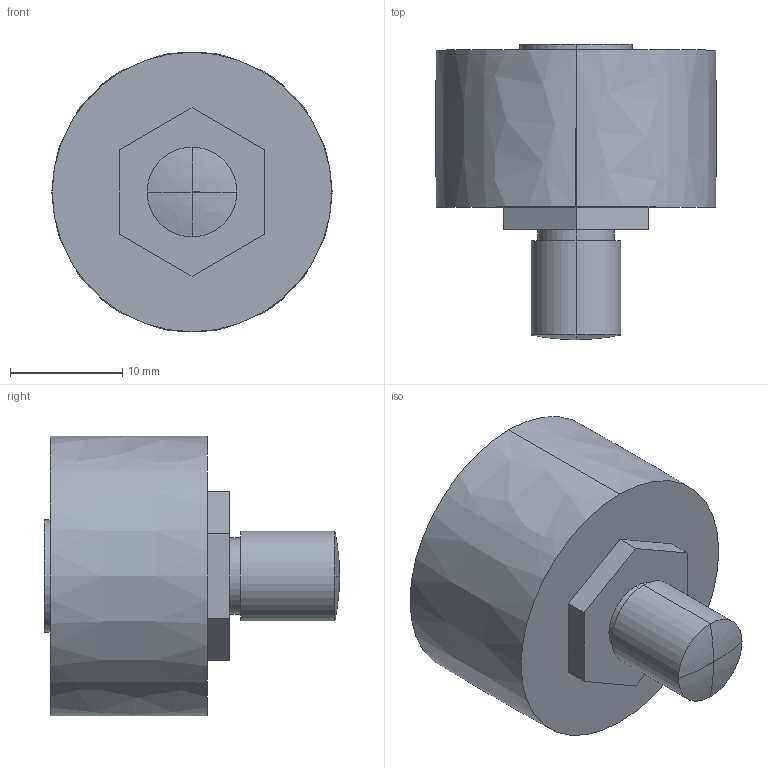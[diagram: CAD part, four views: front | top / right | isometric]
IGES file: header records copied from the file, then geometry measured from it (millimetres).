
Start section: 3D InterOp IGES (v. 2019 1.0.2), Spatial Corp. Copyright (c) 1999-2017.
Global section: file name: BHR 25 C.igs; native system: Spatial Corp.; preprocessor: 3D InterOp GENERIC/IGES 3.0; author: Noname; organization: Noname; date: 20220628.172228; units: millimetre
Bounding box: 24.99 x 26.3 x 24.9 mm (x, y, z)
Surface area: 2470.3 mm2 (no closed solid volume)
Topology: 0 solids, 0 shells, 30 faces, 136 edges, 132 vertices
Faces by surface type: extrusion 18, revolution 10, bspline 2
